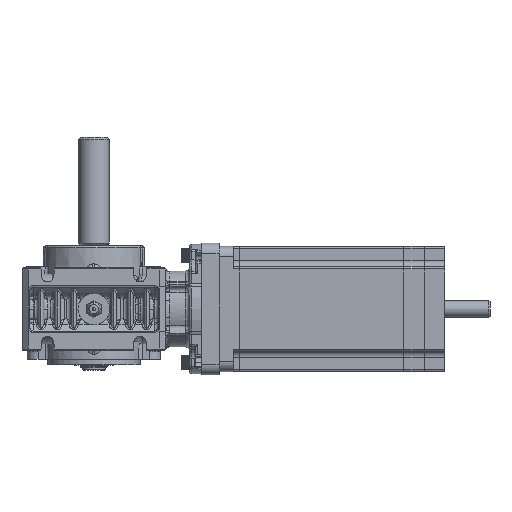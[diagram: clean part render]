
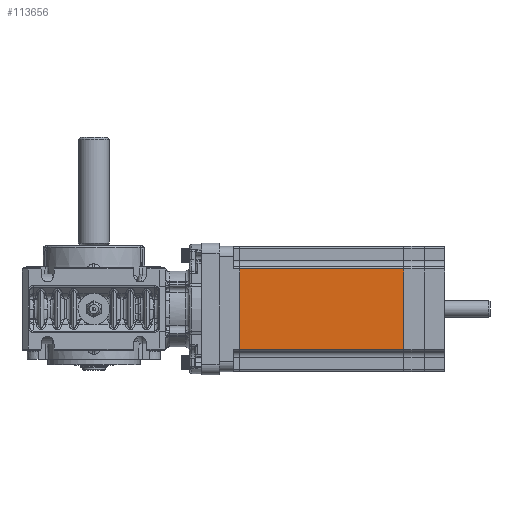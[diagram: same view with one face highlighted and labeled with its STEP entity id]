
A CAD part, front view. The second image highlights one B-rep face of the part: STEP entity #113656.
In plain terms, the highlighted planar face has unit normal (0, -1, 0).
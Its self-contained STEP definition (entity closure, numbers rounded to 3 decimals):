
#10301 = LINE ( 'NONE', #190282, #208296 ) ;
#13469 = CARTESIAN_POINT ( 'NONE',  ( 146.745, -30.63, 346.117 ) ) ;
#21009 = EDGE_CURVE ( 'NONE', #162089, #235708, #77463, .T. ) ;
#22203 = LINE ( 'NONE', #226145, #182812 ) ;
#48726 = CARTESIAN_POINT ( 'NONE',  ( 126.745, -30.63, 346.117 ) ) ;
#56211 = ORIENTED_EDGE ( 'NONE', *, *, #111734, .T. ) ;
#57054 = CARTESIAN_POINT ( 'NONE',  ( 43.745, -30.63, 340.117 ) ) ;
#77463 = LINE ( 'NONE', #57054, #135343 ) ;
#77866 = ORIENTED_EDGE ( 'NONE', *, *, #86821, .F. ) ;
#86821 = EDGE_CURVE ( 'NONE', #190165, #235708, #10301, .T. ) ;
#94217 = DIRECTION ( 'NONE',  ( -1., 0., 0. ) ) ;
#101890 = CARTESIAN_POINT ( 'NONE',  ( 46.745, -30.63, 340.117 ) ) ;
#102389 = CARTESIAN_POINT ( 'NONE',  ( 46.745, -30.63, 301.117 ) ) ;
#107208 = ORIENTED_EDGE ( 'NONE', *, *, #21009, .T. ) ;
#111734 = EDGE_CURVE ( 'NONE', #190165, #173371, #22203, .T. ) ;
#113656 = ADVANCED_FACE ( 'NONE', ( #192214 ), #193392, .T. ) ;
#122849 = CARTESIAN_POINT ( 'NONE',  ( 126.745, -30.63, 301.117 ) ) ;
#124744 = EDGE_CURVE ( 'NONE', #162089, #173371, #159164, .T. ) ;
#135343 = VECTOR ( 'NONE', #94217, 1000. ) ;
#150602 = DIRECTION ( 'NONE',  ( 1., 0., 0. ) ) ;
#159164 = LINE ( 'NONE', #48726, #187304 ) ;
#162089 = VERTEX_POINT ( 'NONE', #201478 ) ;
#171610 = AXIS2_PLACEMENT_3D ( 'NONE', #13469, #230670, #229510 ) ;
#173371 = VERTEX_POINT ( 'NONE', #122849 ) ;
#181225 = ORIENTED_EDGE ( 'NONE', *, *, #124744, .F. ) ;
#182812 = VECTOR ( 'NONE', #150602, 1000. ) ;
#187304 = VECTOR ( 'NONE', #232346, 1000. ) ;
#190165 = VERTEX_POINT ( 'NONE', #102389 ) ;
#190282 = CARTESIAN_POINT ( 'NONE',  ( 46.745, -30.63, 346.117 ) ) ;
#191946 = EDGE_LOOP ( 'NONE', ( #181225, #107208, #77866, #56211 ) ) ;
#192214 = FACE_OUTER_BOUND ( 'NONE', #191946, .T. ) ;
#193392 = PLANE ( 'NONE',  #171610 ) ;
#201478 = CARTESIAN_POINT ( 'NONE',  ( 126.745, -30.63, 340.117 ) ) ;
#208296 = VECTOR ( 'NONE', #225163, 1000. ) ;
#225163 = DIRECTION ( 'NONE',  ( 0., 0., 1. ) ) ;
#226145 = CARTESIAN_POINT ( 'NONE',  ( 146.745, -30.63, 301.117 ) ) ;
#229510 = DIRECTION ( 'NONE',  ( 1., 0., 0. ) ) ;
#230670 = DIRECTION ( 'NONE',  ( 0., -1., 0. ) ) ;
#232346 = DIRECTION ( 'NONE',  ( 0., 0., -1. ) ) ;
#235708 = VERTEX_POINT ( 'NONE', #101890 ) ;
